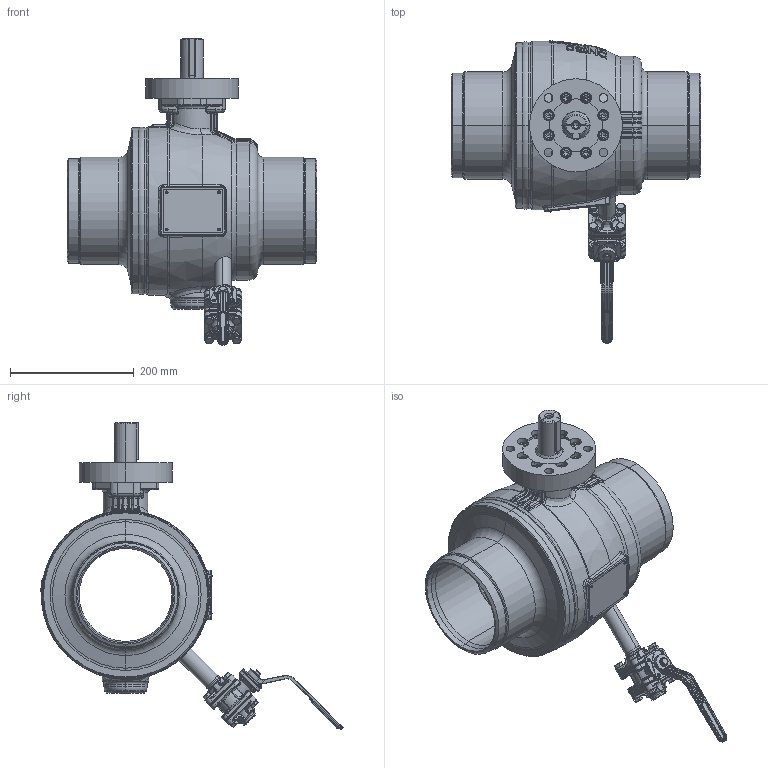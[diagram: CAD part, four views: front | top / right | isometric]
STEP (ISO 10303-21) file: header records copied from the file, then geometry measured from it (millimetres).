
FILE_DESCRIPTION((''),'2;1');
FILE_NAME('KHSVI_150_FG_FR_WE_F12_ENTL','2026-01-27T14:21:54',('schwaba'),('KLINGER'),'CREO PARAMETRIC BY PTC INC, 2023014','CREO PARAMETRIC BY PTC INC, 2023014','');
FILE_SCHEMA(('CONFIG_CONTROL_DESIGN'));
Length unit declared in the file: millimetre
Products named in the file (1): KHSVI_150_FG_FR_WE_F12_ENTL
Bounding box: 403 x 488.12 x 494.9 mm (x, y, z)
Volume: 6426155.2 mm3; surface area: 1218027.2 mm2
Topology: 1 solids, 3 shells, 3166 faces, 7639 edges, 4560 vertices
Faces by surface type: plane 931, cylinder 781, bspline 618, torus 461, cone 303, sphere 51, revolution 16, extrusion 5
Entity records: 185487 total; most frequent: CARTESIAN_POINT 116114, ORIENTED_EDGE 15218, DIRECTION 13844, EDGE_CURVE 7609, AXIS2_PLACEMENT_3D 5841, VERTEX_POINT 4560, EDGE_LOOP 3363, CIRCLE 3311
